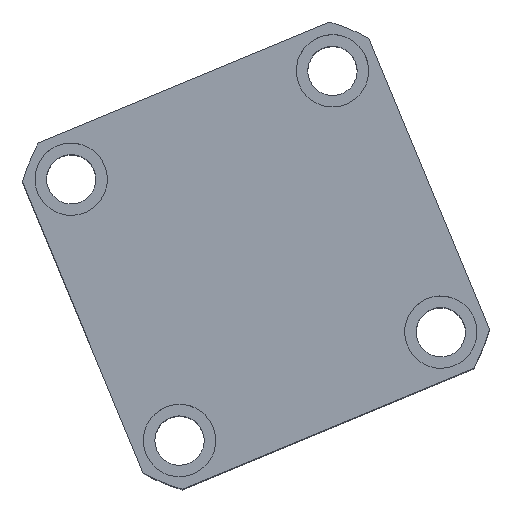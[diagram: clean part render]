
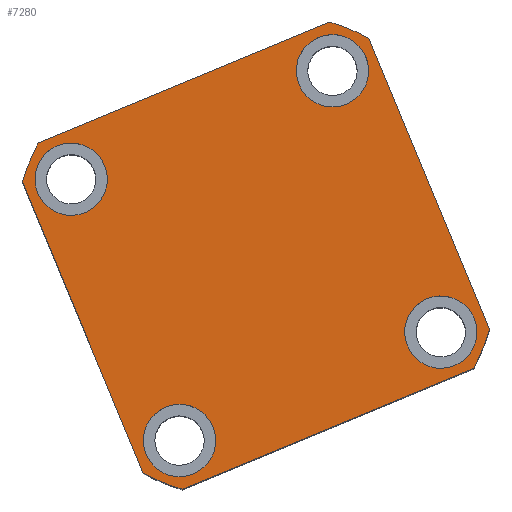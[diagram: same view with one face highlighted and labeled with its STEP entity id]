
A CAD part, top view. The second image highlights one B-rep face of the part: STEP entity #7280.
In plain terms, the highlighted planar face has unit normal (0, 0, 1) as drawn and (0, 0, -1) by its records, which use the part's own axes.
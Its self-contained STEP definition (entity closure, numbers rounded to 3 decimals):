
#31 = VERTEX_POINT ( 'NONE', #643 ) ;
#91 = LINE ( 'NONE', #1215, #2867 ) ;
#449 = EDGE_CURVE ( 'NONE', #9904, #6809, #13434, .T. ) ;
#517 = DIRECTION ( 'NONE',  ( 1., 0., 0. ) ) ;
#530 = ORIENTED_EDGE ( 'NONE', *, *, #3955, .F. ) ;
#587 = CARTESIAN_POINT ( 'NONE',  ( 32., 43., 0. ) ) ;
#617 = ORIENTED_EDGE ( 'NONE', *, *, #6331, .F. ) ;
#643 = CARTESIAN_POINT ( 'NONE',  ( 57., -47.971, 0. ) ) ;
#853 = CARTESIAN_POINT ( 'NONE',  ( -54., 43., 0. ) ) ;
#1001 = EDGE_CURVE ( 'NONE', #7784, #3391, #10472, .T. ) ;
#1144 = DIRECTION ( 'NONE',  ( 0., 0., -1. ) ) ;
#1215 = CARTESIAN_POINT ( 'NONE',  ( -57., -57., 0. ) ) ;
#1234 = CARTESIAN_POINT ( 'NONE',  ( -43., 43., 0. ) ) ;
#1315 = AXIS2_PLACEMENT_3D ( 'NONE', #11047, #4050, #12234 ) ;
#1637 = ORIENTED_EDGE ( 'NONE', *, *, #9941, .F. ) ;
#1687 = VERTEX_POINT ( 'NONE', #5770 ) ;
#1750 = VECTOR ( 'NONE', #12225, 1000. ) ;
#1892 = ORIENTED_EDGE ( 'NONE', *, *, #14964, .F. ) ;
#1987 = EDGE_CURVE ( 'NONE', #9268, #2886, #15071, .T. ) ;
#2202 = EDGE_LOOP ( 'NONE', ( #13403, #1892, #11621, #6146, #617, #4121, #14774, #5436 ) ) ;
#2260 = EDGE_LOOP ( 'NONE', ( #530, #7183 ) ) ;
#2329 = DIRECTION ( 'NONE',  ( 0., 0., 1. ) ) ;
#2421 = DIRECTION ( 'NONE',  ( -1., 0., 0. ) ) ;
#2554 = AXIS2_PLACEMENT_3D ( 'NONE', #4224, #12422, #5428 ) ;
#2669 = EDGE_CURVE ( 'NONE', #5408, #31, #7359, .T. ) ;
#2867 = VECTOR ( 'NONE', #7820, 1000. ) ;
#2886 = VERTEX_POINT ( 'NONE', #9195 ) ;
#2968 = DIRECTION ( 'NONE',  ( 0., 0., -1. ) ) ;
#2985 = CARTESIAN_POINT ( 'NONE',  ( -43., -43., 0. ) ) ;
#2997 = VERTEX_POINT ( 'NONE', #9309 ) ;
#3147 = LINE ( 'NONE', #5075, #9019 ) ;
#3250 = CARTESIAN_POINT ( 'NONE',  ( 0., 0., 0. ) ) ;
#3328 = DIRECTION ( 'NONE',  ( 0., 0., -1. ) ) ;
#3391 = VERTEX_POINT ( 'NONE', #12119 ) ;
#3434 = CARTESIAN_POINT ( 'NONE',  ( -57., -47.971, 0. ) ) ;
#3606 = AXIS2_PLACEMENT_3D ( 'NONE', #3250, #11429, #4435 ) ;
#3955 = EDGE_CURVE ( 'NONE', #3391, #7784, #5549, .T. ) ;
#4042 = DIRECTION ( 'NONE',  ( 0., 0., -1. ) ) ;
#4050 = DIRECTION ( 'NONE',  ( 0., 0., 1. ) ) ;
#4054 = FACE_BOUND ( 'NONE', #4111, .T. ) ;
#4111 = EDGE_LOOP ( 'NONE', ( #6073, #9549 ) ) ;
#4121 = ORIENTED_EDGE ( 'NONE', *, *, #449, .F. ) ;
#4224 = CARTESIAN_POINT ( 'NONE',  ( 0., 0., 0. ) ) ;
#4306 = DIRECTION ( 'NONE',  ( 0., 0., -1. ) ) ;
#4435 = DIRECTION ( 'NONE',  ( 1., 0., 0. ) ) ;
#4547 = CIRCLE ( 'NONE', #10943, 11. ) ;
#4888 = DIRECTION ( 'NONE',  ( 0., 0., -1. ) ) ;
#4902 = EDGE_CURVE ( 'NONE', #2886, #9268, #13445, .T. ) ;
#5075 = CARTESIAN_POINT ( 'NONE',  ( -57., 57., 0. ) ) ;
#5216 = CARTESIAN_POINT ( 'NONE',  ( -32., -43., 0. ) ) ;
#5269 = LINE ( 'NONE', #11038, #1750 ) ;
#5408 = VERTEX_POINT ( 'NONE', #9912 ) ;
#5428 = DIRECTION ( 'NONE',  ( 1., 0., 0. ) ) ;
#5436 = ORIENTED_EDGE ( 'NONE', *, *, #12944, .F. ) ;
#5549 = CIRCLE ( 'NONE', #14085, 11. ) ;
#5671 = AXIS2_PLACEMENT_3D ( 'NONE', #11040, #4042, #12227 ) ;
#5770 = CARTESIAN_POINT ( 'NONE',  ( 54., -43., 0. ) ) ;
#5983 = AXIS2_PLACEMENT_3D ( 'NONE', #9363, #2329, #10512 ) ;
#6073 = ORIENTED_EDGE ( 'NONE', *, *, #1987, .F. ) ;
#6146 = ORIENTED_EDGE ( 'NONE', *, *, #14746, .F. ) ;
#6160 = CARTESIAN_POINT ( 'NONE',  ( 57., 47.971, 0. ) ) ;
#6331 = EDGE_CURVE ( 'NONE', #6809, #7335, #8108, .T. ) ;
#6434 = AXIS2_PLACEMENT_3D ( 'NONE', #11870, #4888, #13085 ) ;
#6516 = CIRCLE ( 'NONE', #7750, 11. ) ;
#6556 = DIRECTION ( 'NONE',  ( 0., 0., -1. ) ) ;
#6570 = CIRCLE ( 'NONE', #3606, 74.5 ) ;
#6809 = VERTEX_POINT ( 'NONE', #3434 ) ;
#7183 = ORIENTED_EDGE ( 'NONE', *, *, #1001, .F. ) ;
#7196 = FACE_BOUND ( 'NONE', #10686, .T. ) ;
#7280 = ADVANCED_FACE ( 'NONE', ( #10281, #7196, #7557, #4054, #13415 ), #14589, .F. ) ;
#7335 = VERTEX_POINT ( 'NONE', #7786 ) ;
#7359 = CIRCLE ( 'NONE', #2554, 74.5 ) ;
#7386 = AXIS2_PLACEMENT_3D ( 'NONE', #2985, #3328, #7869 ) ;
#7452 = EDGE_LOOP ( 'NONE', ( #7718, #11540 ) ) ;
#7557 = FACE_BOUND ( 'NONE', #7452, .T. ) ;
#7588 = DIRECTION ( 'NONE',  ( 0., 0., 1. ) ) ;
#7718 = ORIENTED_EDGE ( 'NONE', *, *, #13578, .F. ) ;
#7750 = AXIS2_PLACEMENT_3D ( 'NONE', #8189, #1144, #9371 ) ;
#7784 = VERTEX_POINT ( 'NONE', #5216 ) ;
#7786 = CARTESIAN_POINT ( 'NONE',  ( -47.971, -57., 0. ) ) ;
#7820 = DIRECTION ( 'NONE',  ( 1., 0., 0. ) ) ;
#7869 = DIRECTION ( 'NONE',  ( -1., 0., 0. ) ) ;
#7935 = VECTOR ( 'NONE', #9018, 1000. ) ;
#7966 = VERTEX_POINT ( 'NONE', #9038 ) ;
#8108 = CIRCLE ( 'NONE', #1315, 74.5 ) ;
#8187 = EDGE_CURVE ( 'NONE', #1687, #7966, #10091, .T. ) ;
#8189 = CARTESIAN_POINT ( 'NONE',  ( 43., -43., 0. ) ) ;
#9018 = DIRECTION ( 'NONE',  ( 0., -1., 0. ) ) ;
#9019 = VECTOR ( 'NONE', #13272, 1000. ) ;
#9023 = CARTESIAN_POINT ( 'NONE',  ( -57., 57., 0. ) ) ;
#9038 = CARTESIAN_POINT ( 'NONE',  ( 32., -43., 0. ) ) ;
#9195 = CARTESIAN_POINT ( 'NONE',  ( -32., 43., 0. ) ) ;
#9227 = CIRCLE ( 'NONE', #12624, 11. ) ;
#9268 = VERTEX_POINT ( 'NONE', #853 ) ;
#9309 = CARTESIAN_POINT ( 'NONE',  ( 47.971, 57., 0. ) ) ;
#9363 = CARTESIAN_POINT ( 'NONE',  ( 0., 0., 0. ) ) ;
#9371 = DIRECTION ( 'NONE',  ( -1., 0., 0. ) ) ;
#9373 = AXIS2_PLACEMENT_3D ( 'NONE', #12215, #7588, #517 ) ;
#9467 = DIRECTION ( 'NONE',  ( 0., 0., -1. ) ) ;
#9549 = ORIENTED_EDGE ( 'NONE', *, *, #4902, .F. ) ;
#9904 = VERTEX_POINT ( 'NONE', #13974 ) ;
#9912 = CARTESIAN_POINT ( 'NONE',  ( 47.971, -57., 0. ) ) ;
#9941 = EDGE_CURVE ( 'NONE', #7966, #1687, #6516, .T. ) ;
#9993 = CARTESIAN_POINT ( 'NONE',  ( -43., -43., 0. ) ) ;
#10091 = CIRCLE ( 'NONE', #6434, 11. ) ;
#10281 = FACE_BOUND ( 'NONE', #2260, .T. ) ;
#10472 = CIRCLE ( 'NONE', #7386, 11. ) ;
#10512 = DIRECTION ( 'NONE',  ( 1., 0., 0. ) ) ;
#10686 = EDGE_LOOP ( 'NONE', ( #1637, #12831 ) ) ;
#10854 = VERTEX_POINT ( 'NONE', #587 ) ;
#10943 = AXIS2_PLACEMENT_3D ( 'NONE', #13553, #6556, #14733 ) ;
#11038 = CARTESIAN_POINT ( 'NONE',  ( 57., 57., 0. ) ) ;
#11040 = CARTESIAN_POINT ( 'NONE',  ( -43., 43., 0. ) ) ;
#11047 = CARTESIAN_POINT ( 'NONE',  ( 0., 0., 0. ) ) ;
#11144 = DIRECTION ( 'NONE',  ( -1., 0., 0. ) ) ;
#11297 = CARTESIAN_POINT ( 'NONE',  ( 43., 43., 0. ) ) ;
#11428 = VERTEX_POINT ( 'NONE', #11636 ) ;
#11429 = DIRECTION ( 'NONE',  ( 0., 0., 1. ) ) ;
#11480 = AXIS2_PLACEMENT_3D ( 'NONE', #1234, #9467, #2421 ) ;
#11540 = ORIENTED_EDGE ( 'NONE', *, *, #12128, .F. ) ;
#11621 = ORIENTED_EDGE ( 'NONE', *, *, #2669, .F. ) ;
#11636 = CARTESIAN_POINT ( 'NONE',  ( 54., 43., 0. ) ) ;
#11870 = CARTESIAN_POINT ( 'NONE',  ( 43., -43., 0. ) ) ;
#12119 = CARTESIAN_POINT ( 'NONE',  ( -54., -43., 0. ) ) ;
#12128 = EDGE_CURVE ( 'NONE', #11428, #10854, #9227, .T. ) ;
#12211 = CARTESIAN_POINT ( 'NONE',  ( -47.971, 57., 0. ) ) ;
#12215 = CARTESIAN_POINT ( 'NONE',  ( 0., 0., 0. ) ) ;
#12225 = DIRECTION ( 'NONE',  ( 0., 1., 0. ) ) ;
#12227 = DIRECTION ( 'NONE',  ( -1., 0., 0. ) ) ;
#12234 = DIRECTION ( 'NONE',  ( 1., 0., 0. ) ) ;
#12422 = DIRECTION ( 'NONE',  ( 0., 0., 1. ) ) ;
#12496 = DIRECTION ( 'NONE',  ( -1., 0., 0. ) ) ;
#12624 = AXIS2_PLACEMENT_3D ( 'NONE', #11297, #4306, #12496 ) ;
#12827 = VERTEX_POINT ( 'NONE', #6160 ) ;
#12831 = ORIENTED_EDGE ( 'NONE', *, *, #8187, .F. ) ;
#12944 = EDGE_CURVE ( 'NONE', #2997, #13482, #3147, .T. ) ;
#13085 = DIRECTION ( 'NONE',  ( -1., 0., 0. ) ) ;
#13272 = DIRECTION ( 'NONE',  ( -1., 0., 0. ) ) ;
#13403 = ORIENTED_EDGE ( 'NONE', *, *, #14056, .F. ) ;
#13415 = FACE_OUTER_BOUND ( 'NONE', #2202, .T. ) ;
#13434 = LINE ( 'NONE', #9023, #7935 ) ;
#13445 = CIRCLE ( 'NONE', #5671, 11. ) ;
#13482 = VERTEX_POINT ( 'NONE', #12211 ) ;
#13553 = CARTESIAN_POINT ( 'NONE',  ( 43., 43., 0. ) ) ;
#13578 = EDGE_CURVE ( 'NONE', #10854, #11428, #4547, .T. ) ;
#13885 = EDGE_CURVE ( 'NONE', #13482, #9904, #6570, .T. ) ;
#13974 = CARTESIAN_POINT ( 'NONE',  ( -57., 47.971, 0. ) ) ;
#14056 = EDGE_CURVE ( 'NONE', #12827, #2997, #15174, .T. ) ;
#14085 = AXIS2_PLACEMENT_3D ( 'NONE', #9993, #2968, #11144 ) ;
#14589 = PLANE ( 'NONE',  #9373 ) ;
#14733 = DIRECTION ( 'NONE',  ( -1., 0., 0. ) ) ;
#14746 = EDGE_CURVE ( 'NONE', #7335, #5408, #91, .T. ) ;
#14774 = ORIENTED_EDGE ( 'NONE', *, *, #13885, .F. ) ;
#14964 = EDGE_CURVE ( 'NONE', #31, #12827, #5269, .T. ) ;
#15071 = CIRCLE ( 'NONE', #11480, 11. ) ;
#15174 = CIRCLE ( 'NONE', #5983, 74.5 ) ;
